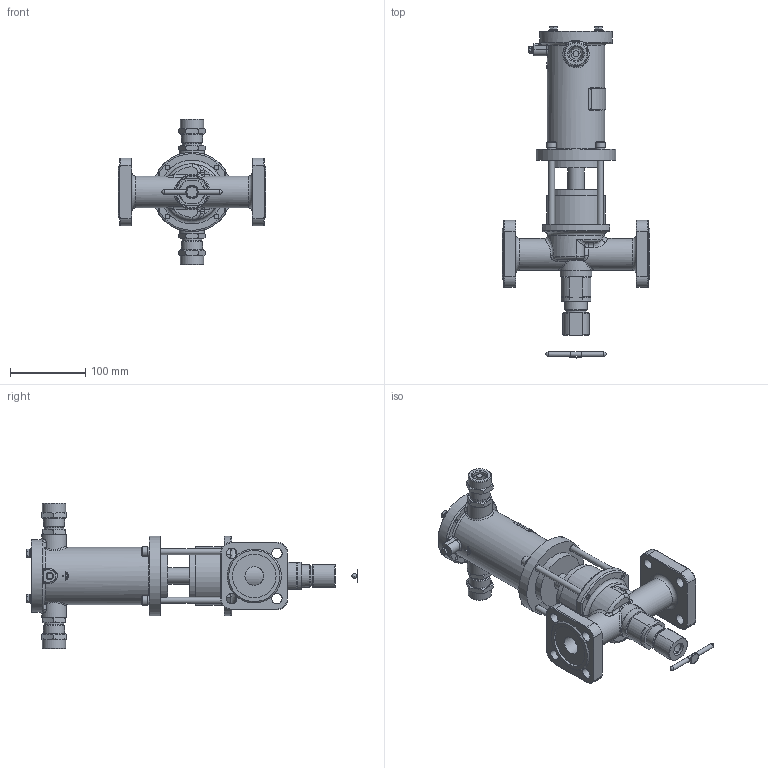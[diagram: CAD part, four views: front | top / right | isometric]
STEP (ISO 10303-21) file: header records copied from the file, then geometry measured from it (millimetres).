
FILE_DESCRIPTION(('STEP AP203'), '1');
FILE_NAME('ÑÅÍÑ DN25PN25-Â-ÍÎ-200Ñ.stp', '2018-09-19T08:55:02', ('Îðëîâ Å.Â.'), ('ÎÎÎ ÍÏÏ Ñåíñîð'), 'ASCON STEP Converter 1.3', 'Kompas 3D', '');
FILE_SCHEMA(('CONFIG_CONTROL_DESIGN','SUPPORT_RESOURCE_SCHEMA'));
Length unit declared in the file: millimetre
Products named in the file (1): 105
Bounding box: 196 x 441.7 x 194 mm (x, y, z)
Volume: 404728.2 mm3; surface area: 349139.6 mm2
Topology: 19 solids, 20 shells, 2002 faces, 5282 edges, 3424 vertices
Faces by surface type: cylinder 1016, plane 729, cone 132, torus 57, bspline 50, extrusion 16, sphere 2
Full cylindrical faces by diameter (mm): 3.5 x2, 4.134 x1, 4.917 x4, 5 x1, 6 x15, 6.5 x4, 6.647 x4, 8 x8, 9 x5, 10 x1, 12 x4, 13 x6, 14 x8, 16 x3, 17 x2, 18 x1, 18.632 x2, 19.9 x1, 20 x3, 22 x3, 22.376 x2, 23 x1, 23.5 x2, 24 x2, 24.5 x2, 25 x2, 26 x4, 26.376 x2, 27.8 x1, 28 x3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
Entity records: 77615 total; most frequent: CARTESIAN_POINT 26958, DIRECTION 10976, ORIENTED_EDGE 10519, EDGE_CURVE 5261, AXIS2_PLACEMENT_3D 4232, VERTEX_POINT 3424, VECTOR 2512, LINE 2496
